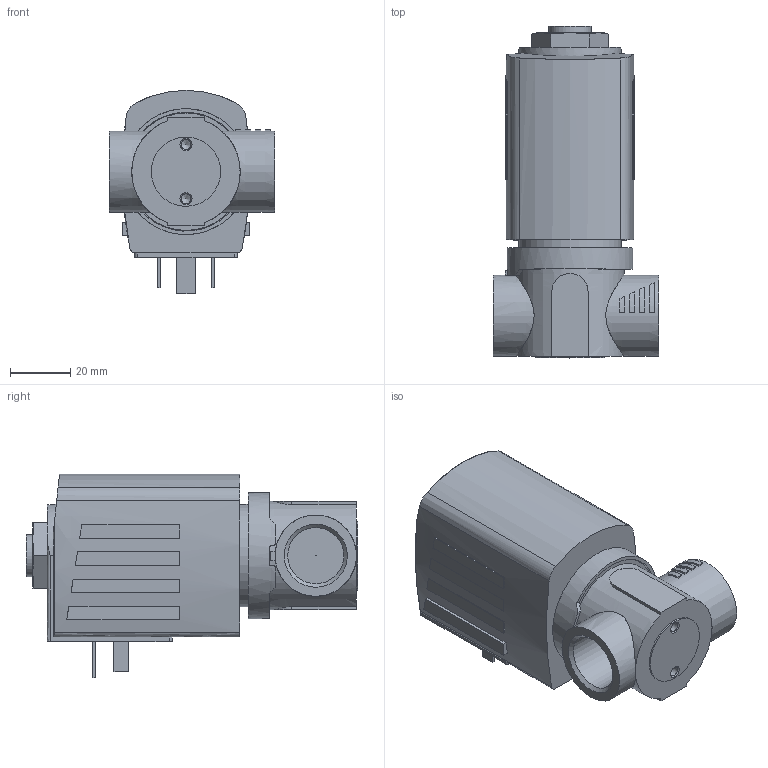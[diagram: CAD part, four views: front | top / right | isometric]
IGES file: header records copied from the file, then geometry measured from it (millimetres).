
Start section: Data from Parasolid IGES Translator 26.0.171, Copyright(c) 2006 Siemens PLM Software. All Rights Reserved.
Global section: file name: 6027-A-12-PTFE___PEEK-VA-G_1_2-42-024___UC.igs; native system: By Siemens PLM Incorporated; preprocessor: XPlus GENERIC/IGES 26.0.171; author: Noname; organization: Noname; date: 20240320.123603; units: millimetre
Bounding box: 55 x 110.2 x 67.5 mm (x, y, z)
Surface area: 29165.1 mm2 (no closed solid volume)
Topology: 0 solids, 0 shells, 172 faces, 862 edges, 845 vertices
Faces by surface type: extrusion 118, revolution 54
